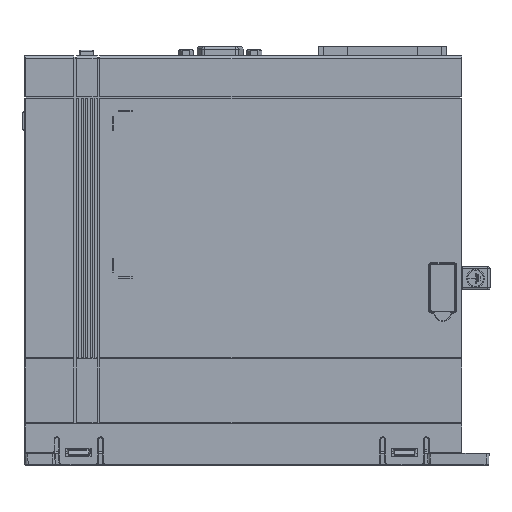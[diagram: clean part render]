
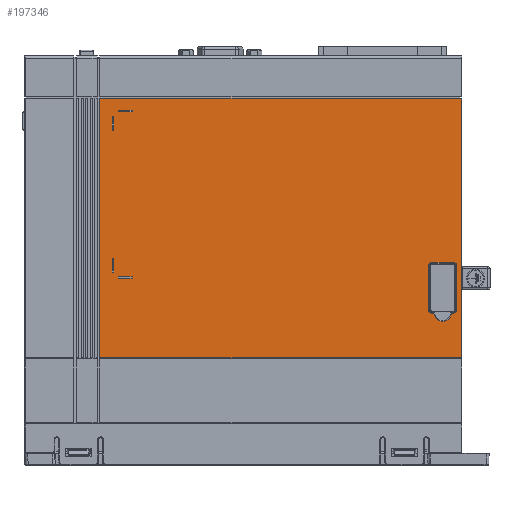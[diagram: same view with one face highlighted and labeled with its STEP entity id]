
A CAD part, left-side view. The second image highlights one B-rep face of the part: STEP entity #197346.
In plain terms, the highlighted planar face has unit normal (-1, 0, 0).
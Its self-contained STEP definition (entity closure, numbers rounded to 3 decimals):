
#157064=DIRECTION('',(0.,0.,-1.));
#157065=VECTOR('',#157064,95.);
#157066=CARTESIAN_POINT('',(-20.,-79.8,134.3));
#157067=LINE('',#157066,#157065);
#157071=DIRECTION('',(0.,-1.,0.));
#157072=VECTOR('',#157071,132.3);
#157073=CARTESIAN_POINT('',(-20.,52.5,39.3));
#157074=LINE('',#157073,#157072);
#157078=DIRECTION('',(0.,0.,-1.));
#157079=VECTOR('',#157078,95.);
#157080=CARTESIAN_POINT('',(-20.,52.5,134.3));
#157081=LINE('',#157080,#157079);
#157085=DIRECTION('',(0.,-1.,0.));
#157086=VECTOR('',#157085,132.3);
#157087=CARTESIAN_POINT('',(-20.,52.5,134.3));
#157088=LINE('',#157087,#157086);
#157589=DIRECTION('',(0.,1.,0.));
#157590=VECTOR('',#157589,0.812);
#157591=CARTESIAN_POINT('',(-20.,-77.,55.607));
#157592=LINE('',#157591,#157590);
#157596=CARTESIAN_POINT('',(-20.,-77.,56.8));
#157597=DIRECTION('',(1.,0.,0.));
#157598=DIRECTION('',(0.,-1.,0.));
#157599=AXIS2_PLACEMENT_3D('',#157596,#157597,#157598);
#157604=DIRECTION('',(0.,0.,-1.));
#157605=VECTOR('',#157604,16.);
#157606=CARTESIAN_POINT('',(-20.,-78.193,72.8));
#157607=LINE('',#157606,#157605);
#157611=CARTESIAN_POINT('',(-20.,-77.,72.8));
#157612=DIRECTION('',(1.,0.,0.));
#157613=DIRECTION('',(0.,0.,1.));
#157614=AXIS2_PLACEMENT_3D('',#157611,#157612,#157613);
#157619=DIRECTION('',(0.,-1.,0.));
#157620=VECTOR('',#157619,8.);
#157621=CARTESIAN_POINT('',(-20.,-69.,73.993));
#157622=LINE('',#157621,#157620);
#157626=CARTESIAN_POINT('',(-20.,-69.,72.8));
#157627=DIRECTION('',(1.,0.,0.));
#157628=DIRECTION('',(0.,1.,0.));
#157629=AXIS2_PLACEMENT_3D('',#157626,#157627,#157628);
#157634=DIRECTION('',(0.,0.,1.));
#157635=VECTOR('',#157634,16.);
#157636=CARTESIAN_POINT('',(-20.,-67.807,56.8));
#157637=LINE('',#157636,#157635);
#157641=CARTESIAN_POINT('',(-20.,-69.,56.8));
#157642=DIRECTION('',(1.,0.,0.));
#157643=DIRECTION('',(0.,0.,-1.));
#157644=AXIS2_PLACEMENT_3D('',#157641,#157642,#157643);
#157649=DIRECTION('',(0.,1.,0.));
#157650=VECTOR('',#157649,0.813);
#157651=CARTESIAN_POINT('',(-20.,-69.813,55.607));
#157652=LINE('',#157651,#157650);
#157656=CARTESIAN_POINT('',(-20.,-73.,55.8));
#157657=DIRECTION('',(-1.,0.,0.));
#157658=DIRECTION('',(0.,0.998,-0.06));
#157659=AXIS2_PLACEMENT_3D('',#157656,#157657,#157658);
#157664=DIRECTION('',(0.,0.,1.));
#157665=VECTOR('',#157664,5.);
#157666=CARTESIAN_POINT('',(-20.,47.5,122.5));
#157667=LINE('',#157666,#157665);
#157671=DIRECTION('',(0.,1.,0.));
#157672=VECTOR('',#157671,0.5);
#157673=CARTESIAN_POINT('',(-20.,47.5,127.5));
#157674=LINE('',#157673,#157672);
#157678=DIRECTION('',(0.,0.,-1.));
#157679=VECTOR('',#157678,5.);
#157680=CARTESIAN_POINT('',(-20.,48.,127.5));
#157681=LINE('',#157680,#157679);
#157685=DIRECTION('',(0.,-1.,0.));
#157686=VECTOR('',#157685,0.5);
#157687=CARTESIAN_POINT('',(-20.,48.,122.5));
#157688=LINE('',#157687,#157686);
#157692=DIRECTION('',(0.,-1.,0.));
#157693=VECTOR('',#157692,5.);
#157694=CARTESIAN_POINT('',(-20.,45.7,129.3));
#157695=LINE('',#157694,#157693);
#157699=DIRECTION('',(0.,0.,1.));
#157700=VECTOR('',#157699,0.5);
#157701=CARTESIAN_POINT('',(-20.,40.7,129.3));
#157702=LINE('',#157701,#157700);
#157706=DIRECTION('',(0.,1.,0.));
#157707=VECTOR('',#157706,5.);
#157708=CARTESIAN_POINT('',(-20.,40.7,129.8));
#157709=LINE('',#157708,#157707);
#157713=DIRECTION('',(0.,0.,-1.));
#157714=VECTOR('',#157713,0.5);
#157715=CARTESIAN_POINT('',(-20.,45.7,129.8));
#157716=LINE('',#157715,#157714);
#157720=DIRECTION('',(0.,1.,0.));
#157721=VECTOR('',#157720,0.5);
#157722=CARTESIAN_POINT('',(-20.,47.5,75.6));
#157723=LINE('',#157722,#157721);
#157727=DIRECTION('',(0.,0.,-1.));
#157728=VECTOR('',#157727,5.);
#157729=CARTESIAN_POINT('',(-20.,48.,75.6));
#157730=LINE('',#157729,#157728);
#157734=DIRECTION('',(0.,-1.,0.));
#157735=VECTOR('',#157734,0.5);
#157736=CARTESIAN_POINT('',(-20.,48.,70.6));
#157737=LINE('',#157736,#157735);
#157741=DIRECTION('',(0.,0.,1.));
#157742=VECTOR('',#157741,5.);
#157743=CARTESIAN_POINT('',(-20.,47.5,70.6));
#157744=LINE('',#157743,#157742);
#157748=DIRECTION('',(0.,0.,-1.));
#157749=VECTOR('',#157748,0.5);
#157750=CARTESIAN_POINT('',(-20.,45.7,68.8));
#157751=LINE('',#157750,#157749);
#157755=DIRECTION('',(0.,-1.,0.));
#157756=VECTOR('',#157755,5.);
#157757=CARTESIAN_POINT('',(-20.,45.7,68.3));
#157758=LINE('',#157757,#157756);
#157762=DIRECTION('',(0.,0.,1.));
#157763=VECTOR('',#157762,0.5);
#157764=CARTESIAN_POINT('',(-20.,40.7,68.3));
#157765=LINE('',#157764,#157763);
#157769=DIRECTION('',(0.,1.,0.));
#157770=VECTOR('',#157769,5.);
#157771=CARTESIAN_POINT('',(-20.,40.7,68.8));
#157772=LINE('',#157771,#157770);
#185277=CARTESIAN_POINT('',(-20.,52.5,134.3));
#185279=VERTEX_POINT('',#185277);
#185361=CARTESIAN_POINT('',(-20.,52.5,39.3));
#185363=VERTEX_POINT('',#185361);
#186233=CARTESIAN_POINT('',(-20.,-79.8,39.3));
#186235=VERTEX_POINT('',#186233);
#186236=CARTESIAN_POINT('',(-20.,-79.8,134.3));
#186237=VERTEX_POINT('',#186236);
#189780=CARTESIAN_POINT('',(-20.,-77.,55.607));
#189781=CARTESIAN_POINT('',(-20.,-76.188,55.607));
#189782=VERTEX_POINT('',#189780);
#189783=VERTEX_POINT('',#189781);
#189784=CARTESIAN_POINT('',(-20.,-78.193,56.8));
#189785=VERTEX_POINT('',#189784);
#189788=CARTESIAN_POINT('',(-20.,-78.193,72.8));
#189789=VERTEX_POINT('',#189788);
#189792=CARTESIAN_POINT('',(-20.,-77.,73.993));
#189793=VERTEX_POINT('',#189792);
#189796=CARTESIAN_POINT('',(-20.,-69.,73.993));
#189797=VERTEX_POINT('',#189796);
#189800=CARTESIAN_POINT('',(-20.,-67.807,72.8));
#189801=VERTEX_POINT('',#189800);
#189804=CARTESIAN_POINT('',(-20.,-67.807,56.8));
#189805=VERTEX_POINT('',#189804);
#189808=CARTESIAN_POINT('',(-20.,-69.,55.607));
#189809=VERTEX_POINT('',#189808);
#189812=CARTESIAN_POINT('',(-20.,-69.813,55.607));
#189813=VERTEX_POINT('',#189812);
#190104=CARTESIAN_POINT('',(-20.,47.5,122.5));
#190105=CARTESIAN_POINT('',(-20.,47.5,127.5));
#190106=VERTEX_POINT('',#190104);
#190107=VERTEX_POINT('',#190105);
#190108=CARTESIAN_POINT('',(-20.,48.,127.5));
#190109=VERTEX_POINT('',#190108);
#190110=CARTESIAN_POINT('',(-20.,48.,122.5));
#190111=VERTEX_POINT('',#190110);
#190112=CARTESIAN_POINT('',(-20.,45.7,129.3));
#190113=CARTESIAN_POINT('',(-20.,40.7,129.3));
#190114=VERTEX_POINT('',#190112);
#190115=VERTEX_POINT('',#190113);
#190116=CARTESIAN_POINT('',(-20.,40.7,129.8));
#190117=VERTEX_POINT('',#190116);
#190118=CARTESIAN_POINT('',(-20.,45.7,129.8));
#190119=VERTEX_POINT('',#190118);
#190120=CARTESIAN_POINT('',(-20.,47.5,75.6));
#190121=CARTESIAN_POINT('',(-20.,48.,75.6));
#190122=VERTEX_POINT('',#190120);
#190123=VERTEX_POINT('',#190121);
#190124=CARTESIAN_POINT('',(-20.,48.,70.6));
#190125=VERTEX_POINT('',#190124);
#190126=CARTESIAN_POINT('',(-20.,47.5,70.6));
#190127=VERTEX_POINT('',#190126);
#190128=CARTESIAN_POINT('',(-20.,45.7,68.8));
#190129=CARTESIAN_POINT('',(-20.,45.7,68.3));
#190130=VERTEX_POINT('',#190128);
#190131=VERTEX_POINT('',#190129);
#190132=CARTESIAN_POINT('',(-20.,40.7,68.3));
#190133=VERTEX_POINT('',#190132);
#190134=CARTESIAN_POINT('',(-20.,40.7,68.8));
#190135=VERTEX_POINT('',#190134);
#197270=CARTESIAN_POINT('',(-20.,80.,0.));
#197271=DIRECTION('',(-1.,0.,0.));
#197272=DIRECTION('',(0.,-1.,0.));
#197273=AXIS2_PLACEMENT_3D('',#197270,#197271,#197272);
#197274=PLANE('',#197273);
#197276=ORIENTED_EDGE('',*,*,#197275,.T.);
#197278=ORIENTED_EDGE('',*,*,#197277,.F.);
#197280=ORIENTED_EDGE('',*,*,#197279,.F.);
#197281=ORIENTED_EDGE('',*,*,#197055,.T.);
#197282=EDGE_LOOP('',(#197276,#197278,#197280,#197281));
#197283=FACE_OUTER_BOUND('',#197282,.F.);
#197285=ORIENTED_EDGE('',*,*,#197284,.F.);
#197287=ORIENTED_EDGE('',*,*,#197286,.F.);
#197289=ORIENTED_EDGE('',*,*,#197288,.F.);
#197291=ORIENTED_EDGE('',*,*,#197290,.F.);
#197293=ORIENTED_EDGE('',*,*,#197292,.F.);
#197295=ORIENTED_EDGE('',*,*,#197294,.F.);
#197297=ORIENTED_EDGE('',*,*,#197296,.F.);
#197299=ORIENTED_EDGE('',*,*,#197298,.F.);
#197301=ORIENTED_EDGE('',*,*,#197300,.F.);
#197303=ORIENTED_EDGE('',*,*,#197302,.T.);
#197304=EDGE_LOOP('',(#197285,#197287,#197289,#197291,#197293,#197295,#197297,
#197299,#197301,#197303));
#197305=FACE_BOUND('',#197304,.F.);
#197307=ORIENTED_EDGE('',*,*,#197306,.T.);
#197309=ORIENTED_EDGE('',*,*,#197308,.T.);
#197311=ORIENTED_EDGE('',*,*,#197310,.T.);
#197313=ORIENTED_EDGE('',*,*,#197312,.T.);
#197314=EDGE_LOOP('',(#197307,#197309,#197311,#197313));
#197315=FACE_BOUND('',#197314,.F.);
#197317=ORIENTED_EDGE('',*,*,#197316,.T.);
#197319=ORIENTED_EDGE('',*,*,#197318,.T.);
#197321=ORIENTED_EDGE('',*,*,#197320,.T.);
#197323=ORIENTED_EDGE('',*,*,#197322,.T.);
#197324=EDGE_LOOP('',(#197317,#197319,#197321,#197323));
#197325=FACE_BOUND('',#197324,.F.);
#197327=ORIENTED_EDGE('',*,*,#197326,.T.);
#197329=ORIENTED_EDGE('',*,*,#197328,.T.);
#197331=ORIENTED_EDGE('',*,*,#197330,.T.);
#197333=ORIENTED_EDGE('',*,*,#197332,.T.);
#197334=EDGE_LOOP('',(#197327,#197329,#197331,#197333));
#197335=FACE_BOUND('',#197334,.F.);
#197337=ORIENTED_EDGE('',*,*,#197336,.T.);
#197339=ORIENTED_EDGE('',*,*,#197338,.T.);
#197341=ORIENTED_EDGE('',*,*,#197340,.T.);
#197343=ORIENTED_EDGE('',*,*,#197342,.T.);
#197344=EDGE_LOOP('',(#197337,#197339,#197341,#197343));
#197345=FACE_BOUND('',#197344,.F.);
#197346=ADVANCED_FACE('',(#197283,#197305,#197315,#197325,#197335,#197345),
#197274,.T.);
#157600=CIRCLE('',#157599,1.193);
#157615=CIRCLE('',#157614,1.193);
#157630=CIRCLE('',#157629,1.193);
#157645=CIRCLE('',#157644,1.193);
#157660=CIRCLE('',#157659,3.193);
#197055=EDGE_CURVE('',#185279,#186237,#157088,.T.);
#197275=EDGE_CURVE('',#186237,#186235,#157067,.T.);
#197277=EDGE_CURVE('',#185363,#186235,#157074,.T.);
#197279=EDGE_CURVE('',#185279,#185363,#157081,.T.);
#197284=EDGE_CURVE('',#189782,#189783,#157592,.T.);
#197286=EDGE_CURVE('',#189785,#189782,#157600,.T.);
#197288=EDGE_CURVE('',#189789,#189785,#157607,.T.);
#197290=EDGE_CURVE('',#189793,#189789,#157615,.T.);
#197292=EDGE_CURVE('',#189797,#189793,#157622,.T.);
#197294=EDGE_CURVE('',#189801,#189797,#157630,.T.);
#197296=EDGE_CURVE('',#189805,#189801,#157637,.T.);
#197298=EDGE_CURVE('',#189809,#189805,#157645,.T.);
#197300=EDGE_CURVE('',#189813,#189809,#157652,.T.);
#197302=EDGE_CURVE('',#189813,#189783,#157660,.T.);
#197306=EDGE_CURVE('',#190106,#190107,#157667,.T.);
#197308=EDGE_CURVE('',#190107,#190109,#157674,.T.);
#197310=EDGE_CURVE('',#190109,#190111,#157681,.T.);
#197312=EDGE_CURVE('',#190111,#190106,#157688,.T.);
#197316=EDGE_CURVE('',#190114,#190115,#157695,.T.);
#197318=EDGE_CURVE('',#190115,#190117,#157702,.T.);
#197320=EDGE_CURVE('',#190117,#190119,#157709,.T.);
#197322=EDGE_CURVE('',#190119,#190114,#157716,.T.);
#197326=EDGE_CURVE('',#190122,#190123,#157723,.T.);
#197328=EDGE_CURVE('',#190123,#190125,#157730,.T.);
#197330=EDGE_CURVE('',#190125,#190127,#157737,.T.);
#197332=EDGE_CURVE('',#190127,#190122,#157744,.T.);
#197336=EDGE_CURVE('',#190130,#190131,#157751,.T.);
#197338=EDGE_CURVE('',#190131,#190133,#157758,.T.);
#197340=EDGE_CURVE('',#190133,#190135,#157765,.T.);
#197342=EDGE_CURVE('',#190135,#190130,#157772,.T.);
